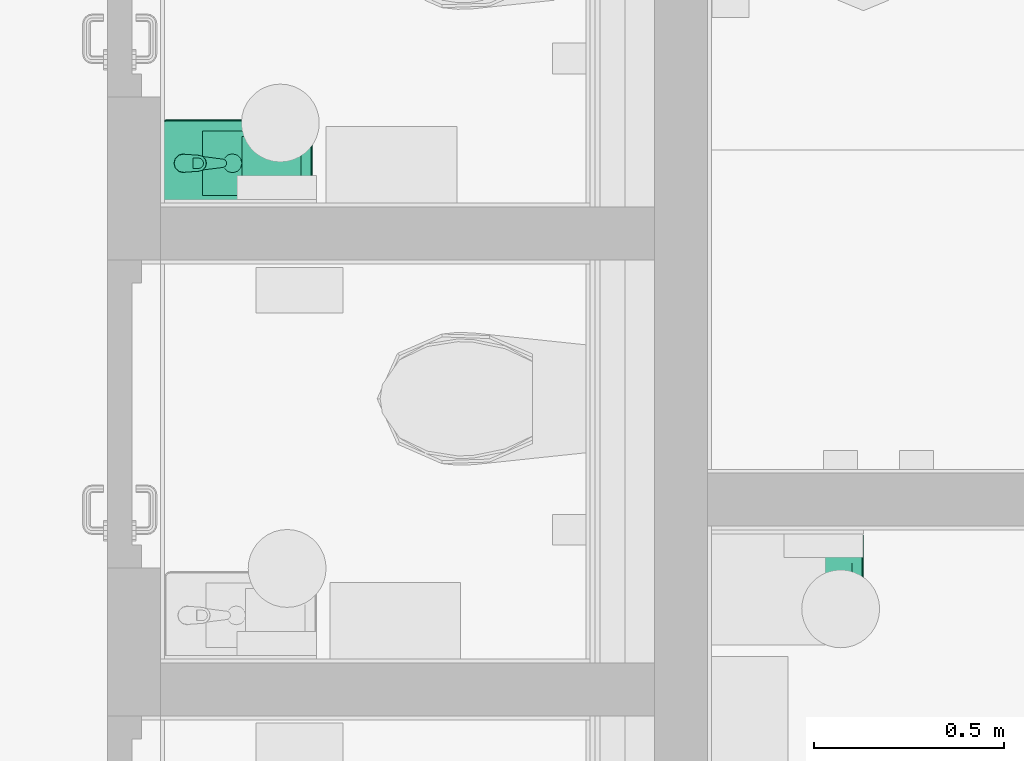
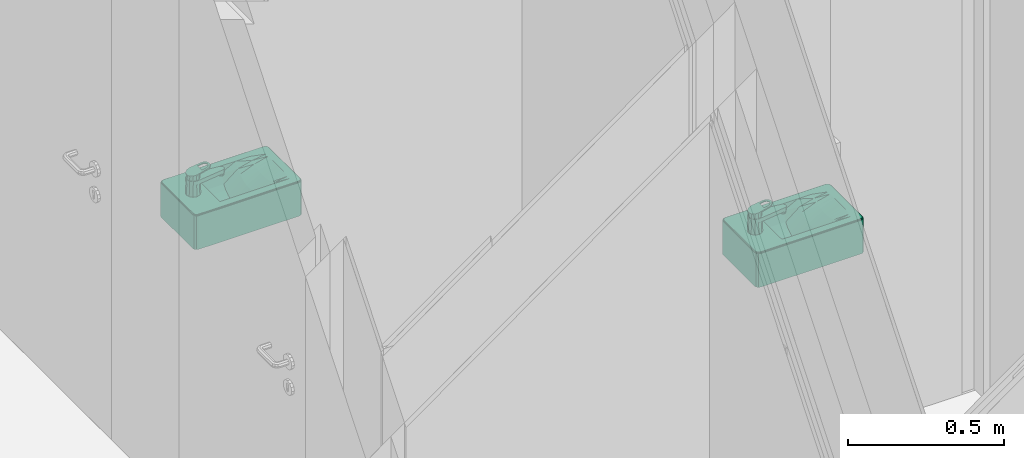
# One storey, part 265 of 301: 2 flow terminals.
"""IFC2X3 building model written with IfcOpenShell, lengths in millimetres."""

from ifc_helpers import new_model, entity, si_unit, converted_unit, derived_unit, money_unit, direction, frame, origin_with_axes, place, context, subcontext, project, spatial, open_shell, faceted_brep, surface_model, source, transform, mapped, type_object, element, save


model = new_model("IFC2X3")

# Units and contexts
model_context = context("Model", 3, precision=0.01, world=origin_with_axes(), true_north=direction((0.0, 1.0)))
body_context = subcontext(model_context, "Body", "Model", "MODEL_VIEW")
ifc_project = project(units=[si_unit("LENGTHUNIT", "METRE", prefix="MILLI"), si_unit("AREAUNIT", "SQUARE_METRE"), si_unit("VOLUMEUNIT", "CUBIC_METRE"), converted_unit("PLANEANGLEUNIT", "DEGREE", entity("IfcPlaneAngleMeasure", 0.0174532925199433), si_unit("PLANEANGLEUNIT", "RADIAN"), dimensions=[0, 0, 0, 0, 0, 0, 0]), money_unit("EUR"), converted_unit("TIMEUNIT", "Year", entity("IfcTimeMeasure", 31557600.0), si_unit("TIMEUNIT", "SECOND"), dimensions=[0, 0, 1, 0, 0, 0, 0]), si_unit("MASSUNIT", "GRAM", prefix="KILO"), si_unit("THERMODYNAMICTEMPERATUREUNIT", "DEGREE_CELSIUS"), si_unit("LUMINOUSINTENSITYUNIT", "LUMEN"), si_unit("ENERGYUNIT", "JOULE", prefix="MEGA"), derived_unit("THERMALCONDUCTANCEUNIT", [(si_unit("POWERUNIT", "WATT"), 1), (si_unit("LENGTHUNIT", "METRE"), -1), (si_unit("THERMODYNAMICTEMPERATUREUNIT", "KELVIN"), -1)]), derived_unit("SPECIFICHEATCAPACITYUNIT", [(si_unit("ENERGYUNIT", "JOULE"), 1), (si_unit("MASSUNIT", "GRAM", prefix="KILO"), -1), (si_unit("THERMODYNAMICTEMPERATUREUNIT", "KELVIN"), -1)]), derived_unit("MASSDENSITYUNIT", [(si_unit("MASSUNIT", "GRAM", prefix="KILO"), 1), (si_unit("VOLUMEUNIT", "CUBIC_METRE"), -1)])], contexts=[model_context])

# Site, building, storey
site_placement = place(None, frame((0.0, 0.0, 8650.0), z_axis=(0.0, 0.0, 1.0), x_axis=(1.0, 0.0, 0.0)))
site = spatial("IfcSite", under=ifc_project, at=site_placement, Name="43301:001:0844", CompositionType="ELEMENT")
building_placement = place(site_placement, origin_with_axes())
building = spatial("IfcBuilding", under=site, at=building_placement, Name="Kuressaare Ametikooli tuulikute mehaanikute õppekorpus", CompositionType="ELEMENT")
storey_placement = place(building_placement, origin_with_axes())
storey = spatial("IfcBuildingStorey", under=building, at=storey_placement, Name="1.korrus", CompositionType="ELEMENT", Elevation=0.0)

# Flow terminals
sanitary_terminal_type = type_object("IfcSanitaryTerminalType", Name="Basin 27", PredefinedType="NOTDEFINED")
shared_shape = source(origin_with_axes(), body_context, "Body", "SurfaceModel", [
    faceted_brep([(100.0, -400.0, 865.0), (-100.0, -400.0, 865.0), (-107.5, -397.9903810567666, 865.0), (-112.9903810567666, -392.5, 865.0), (-115.0, -385.0, 865.0), (-115.0, -14.99999999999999, 865.0), (-112.9903810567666, -7.500000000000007, 865.0), (-107.5, -2.009618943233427, 865.0), (-100.0, 0.0, 865.0), (100.0, 0.0, 865.0), (107.5, -2.009618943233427, 865.0), (112.9903810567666, -7.500000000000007, 865.0), (115.0, -14.99999999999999, 865.0), (115.0, -385.0, 865.0), (112.9903810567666, -392.5, 865.0), (107.5, -397.9903810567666, 865.0), (-85.0, -370.0, 865.0), (85.0, -370.0, 865.0), (85.0, -110.0, 865.0), (-85.0, -110.0, 865.0), (100.0000003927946, -400.0000003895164, 995.0), (-99.99999979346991, -400.0000003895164, 995.0), (-107.5000000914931, -397.9903813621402, 995.0), (-112.9903813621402, -392.5000000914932, 995.0), (-115.0000003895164, -384.99999979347, 995.0), (-115.0000003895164, -14.99999968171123, 995.0), (-112.9903813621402, -7.500000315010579, 995.0), (-107.5000000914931, -2.009619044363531, 995.0), (-99.99999979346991, -1.698735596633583e-08, 995.0), (100.0000003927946, -1.698735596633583e-08, 995.0), (107.4999997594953, -2.009619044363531, 995.0), (112.9903810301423, -7.500000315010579, 995.0), (115.0000000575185, -14.99999968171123, 995.0), (115.0000000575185, -384.99999979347, 995.0), (112.9903810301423, -392.5000000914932, 995.0), (107.4999997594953, -397.9903813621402, 995.0), (-85.0, -370.0, 999.9999996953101), (85.0, -370.0, 999.9999996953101), (85.0, -110.0, 999.9999996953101), (-85.0, -110.0, 999.9999996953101), (99.97757064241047, -399.8296295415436, 996.2940952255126), (-99.97757004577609, -399.8296295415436, 996.2940952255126), (-107.4118096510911, -397.8376310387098, 996.2940952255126), (-112.8376310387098, -392.4118096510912, 996.2940952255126), (-114.8296295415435, -384.9775700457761, 996.2940952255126), (-114.8296295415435, -15.02242943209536, 996.2940952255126), (-112.837631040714, -7.588190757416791, 996.2940952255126), (-107.4118096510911, -2.162369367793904, 996.2940952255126), (-99.97757004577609, -0.1703708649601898, 996.2940952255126), (99.97757064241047, -0.1703708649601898, 996.2940952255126), (107.4118093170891, -2.162369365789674, 996.2940952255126), (112.8376307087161, -7.588190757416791, 996.2940952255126), (114.8296292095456, -15.02242943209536, 996.2940952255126), (114.8296292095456, -384.9775700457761, 996.2940952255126), (112.8376307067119, -392.4118096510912, 996.2940952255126), (107.4118093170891, -397.8376310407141, 996.2940952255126), (-99.34173767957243, -4.999997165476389, 999.9999996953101), (-104.9118111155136, -6.492493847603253, 999.9999996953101), (-108.5075066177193, -10.08818934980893, 999.9999996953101), (-110.0000032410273, -15.65826187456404, 999.9999996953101), (-110.0000032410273, -384.3417376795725, 999.9999996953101), (-108.5075065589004, -389.9118111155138, 999.9999996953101), (-104.9118111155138, -393.5075065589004, 999.9999996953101), (-99.34173767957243, -395.0000032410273, 999.9999996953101), (99.34173819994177, -395.0000032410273, 999.9999996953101), (104.9118107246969, -393.5075066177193, 999.9999996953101), (108.5075062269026, -389.9118111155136, 999.9999996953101), (110.0000029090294, -384.3417376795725, 999.9999996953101), (110.0000029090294, -15.65826187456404, 999.9999996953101), (108.5075062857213, -10.08818934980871, 999.9999996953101), (104.9118107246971, -6.492493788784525, 999.9999996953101), (99.34173819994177, -4.999997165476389, 999.9999996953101), (99.80719978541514, -398.5355345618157, 998.5355339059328), (-99.80719920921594, -398.5355345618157, 998.5355339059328), (-106.7419367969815, -396.6773772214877, 998.5355339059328), (-111.6773772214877, -391.7419367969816, 998.5355339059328), (-113.5355345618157, -384.807199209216, 998.5355339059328), (-113.5355345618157, -15.1928002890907, 998.5355339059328), (-111.6773772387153, -8.258063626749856, 998.5355339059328), (-106.7419367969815, -3.322623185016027, 998.5355339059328), (-99.80719920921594, -1.464465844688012, 998.5355339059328), (99.80719978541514, -1.464465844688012, 998.5355339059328), (106.741936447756, -3.322623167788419, 998.5355339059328), (111.6773769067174, -8.258063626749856, 998.5355339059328), (113.5355342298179, -15.1928002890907, 998.5355339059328), (113.5355342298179, -384.807199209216, 998.5355339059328), (111.6773768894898, -391.7419367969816, 998.5355339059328), (106.741936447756, -396.6773772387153, 998.5355339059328), (-105.5816828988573, -5.332241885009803, 999.8296291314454), (-99.51210824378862, -3.70590425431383, 999.8296291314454), (-109.6677585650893, -9.41831755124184, 999.8296291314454), (-111.2940961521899, -15.48789128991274, 999.8296291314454), (-111.2940961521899, -384.5121082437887, 999.8296291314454), (-109.6677585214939, -390.5816828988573, 999.8296291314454), (-105.5816828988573, -394.667758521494, 999.8296291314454), (-99.51210824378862, -396.2940961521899, 999.8296291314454), (99.5121087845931, -396.2940961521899, 999.8296291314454), (105.581682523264, -394.6677585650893, 999.8296291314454), (109.667758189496, -390.5816828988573, 999.8296291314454), (111.294095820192, -384.5121082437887, 999.8296291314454), (111.294095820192, -15.48789128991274, 999.8296291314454), (109.6677582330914, -9.41831755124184, 999.8296291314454), (105.581682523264, -5.332241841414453, 999.8296291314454), (99.5121087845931, -3.70590425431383, 999.8296291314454)], [[[0, 1, 2, 3, 4, 5, 6, 7, 8, 9, 10, 11, 12, 13, 14, 15], [16, 17, 18, 19]], [[0, 20, 21, 1]], [[1, 21, 22, 2]], [[2, 22, 23, 3]], [[3, 23, 24, 4]], [[4, 24, 25, 5]], [[5, 25, 26, 6]], [[6, 26, 27, 7]], [[7, 27, 28, 8]], [[8, 28, 29, 9]], [[9, 29, 30, 10]], [[10, 30, 31, 11]], [[11, 31, 32, 12]], [[12, 32, 33, 13]], [[13, 33, 34, 14]], [[14, 34, 35, 15]], [[15, 35, 20, 0]], [[36, 37, 17, 16]], [[37, 38, 18, 17]], [[38, 39, 19, 18]], [[39, 36, 16, 19]], [[20, 40, 41, 21]], [[21, 41, 42, 22]], [[22, 42, 43, 23]], [[23, 43, 44, 24]], [[24, 44, 45, 25]], [[25, 45, 46, 26]], [[26, 46, 47, 27]], [[27, 47, 48, 28]], [[28, 48, 49, 29]], [[29, 49, 50, 30]], [[30, 50, 51, 31]], [[31, 51, 52, 32]], [[32, 52, 53, 33]], [[33, 53, 54, 34]], [[34, 54, 55, 35]], [[35, 55, 40, 20]], [[56, 57, 58, 59, 60, 61, 62, 63, 64, 65, 66, 67, 68, 69, 70, 71], [36, 39, 38, 37]], [[40, 72, 73, 41]], [[41, 73, 74, 42]], [[42, 74, 75, 43]], [[43, 75, 76, 44]], [[44, 76, 77, 45]], [[45, 77, 78, 46]], [[46, 78, 79, 47]], [[47, 79, 80, 48]], [[48, 80, 81, 49]], [[49, 81, 82, 50]], [[50, 82, 83, 51]], [[51, 83, 84, 52]], [[52, 84, 85, 53]], [[53, 85, 86, 54]], [[54, 86, 87, 55]], [[55, 87, 72, 40]], [[88, 57, 56, 89]], [[90, 58, 57, 88]], [[91, 59, 58, 90]], [[92, 60, 59, 91]], [[93, 61, 60, 92]], [[94, 62, 61, 93]], [[95, 63, 62, 94]], [[96, 64, 63, 95]], [[97, 65, 64, 96]], [[98, 66, 65, 97]], [[99, 67, 66, 98]], [[100, 68, 67, 99]], [[101, 69, 68, 100]], [[102, 70, 69, 101]], [[103, 71, 70, 102]], [[89, 56, 71, 103]], [[72, 96, 95, 73]], [[73, 95, 94, 74]], [[74, 94, 93, 75]], [[75, 93, 92, 76]], [[76, 92, 91, 77]], [[77, 91, 90, 78]], [[78, 90, 88, 79]], [[79, 88, 89, 80]], [[80, 89, 103, 81]], [[81, 103, 102, 82]], [[82, 102, 101, 83]], [[83, 101, 100, 84]], [[84, 100, 99, 85]], [[85, 99, 98, 86]], [[86, 98, 97, 87]], [[87, 97, 96, 72]]]),
    faceted_brep([(-85.0, -370.0, 865.0), (-85.0, -110.0, 865.0), (85.0, -110.0, 865.0), (85.0, -370.0, 865.0), (12.49999999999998, -210.733635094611, 865.0), (21.65063509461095, -201.583, 865.0), (25.0, -189.083, 865.0), (21.65063509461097, -176.583, 865.0), (12.50000000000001, -167.4323649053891, 865.0), (0.0, -164.083, 865.0), (-12.49999999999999, -167.4323649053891, 865.0), (-21.65063509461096, -176.583, 865.0), (-25.0, -189.083, 865.0), (-21.65063509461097, -201.583, 865.0), (-12.50000000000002, -210.733635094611, 865.0), (0.0, -214.083, 865.0), (-85.0, -266.0, 1000.0), (-85.0, -214.0, 972.25), (-85.0, -162.0, 972.25), (-85.0, -110.0, 972.25), (-85.0, -370.0, 1000.0), (-85.0, -318.0, 1000.0), (42.49999999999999, -110.0, 911.2166184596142), (56.66666666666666, -110.0, 921.2681999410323), (70.83333333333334, -110.0, 937.1336281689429), (85.0, -110.0, 972.2499999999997), (-70.83333333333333, -110.0, 937.133628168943), (-56.66666666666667, -110.0, 921.2681999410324), (-42.5, -110.0, 911.2166184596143), (-28.33333333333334, -110.0, 904.7939613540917), (-14.16666666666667, -110.0, 901.173124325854), (0.0, -110.0, 900.0), (14.16666666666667, -110.0, 901.173124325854), (28.33333333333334, -110.0, 904.7939613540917), (85.0, -214.0, 972.2499999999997), (85.0, -266.0, 999.9999999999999), (85.0, -318.0, 1000.0), (85.0, -370.0, 1000.0), (85.0, -162.0, 972.2499999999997), (-42.5, -370.0, 1000.0), (-56.66666666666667, -370.0, 1000.0), (-70.83333333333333, -370.0, 1000.0), (70.83333333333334, -370.0, 1000.0), (56.66666666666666, -370.0, 1000.0), (42.49999999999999, -370.0, 1000.0), (28.33333333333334, -370.0, 1000.0), (14.16666666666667, -370.0, 1000.0), (0.0, -370.0, 1000.0), (-14.16666666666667, -370.0, 1000.0), (-28.33333333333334, -370.0, 1000.0), (14.16666666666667, -209.0669684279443, 901.173124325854), (21.65063509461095, -201.583, 903.0859405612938), (12.49999999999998, -210.733635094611, 901.0351096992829), (25.0, -189.083, 903.9419997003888), (21.65063509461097, -176.583, 903.0859405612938), (14.16666666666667, -169.0990315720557, 901.173124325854), (12.50000000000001, -167.4323649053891, 901.035109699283), (0.0, -164.083, 900.0), (-12.49999999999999, -167.4323649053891, 901.035109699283), (-14.16666666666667, -169.0990315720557, 901.173124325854), (-21.65063509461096, -176.583, 903.0859405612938), (-25.0, -189.083, 903.9419997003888), (-21.65063509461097, -201.583, 903.0859405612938), (-14.16666666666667, -209.0669684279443, 901.173124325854), (-12.50000000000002, -210.733635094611, 901.035109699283), (-0.02107381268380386, -214.0773532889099, 900.0716455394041), (0.0, -214.083, 900.0751753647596), (-0.3097602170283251, -214.0, 900.0256508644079), (0.3097602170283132, -214.0, 900.0256508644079), (-70.83333333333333, -214.0, 937.133628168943), (-70.83333333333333, -162.0, 937.133628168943), (-70.83333333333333, -318.0, 992.8049756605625), (-70.83333333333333, -266.0, 978.92400992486), (56.66666666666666, -162.0, 921.2681999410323), (42.49999999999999, -162.0, 911.2166184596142), (70.83333333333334, -162.0, 937.1336281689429), (-56.66666666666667, -162.0, 921.2681999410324), (-42.5, -162.0, 911.2166184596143), (-28.33333333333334, -162.0, 904.7939613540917), (-14.16666666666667, -162.0, 901.173124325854), (0.0, -162.0, 900.0), (14.16666666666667, -162.0, 901.173124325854), (28.33333333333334, -162.0, 904.7939613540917), (70.83333333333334, -266.0, 978.92400992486), (70.83333333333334, -318.0, 992.8049756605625), (70.83333333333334, -214.0, 937.1336281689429), (-42.5, -318.0, 982.8921917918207), (-56.66666666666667, -318.0, 987.1546857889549), (56.66666666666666, -318.0, 987.1546857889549), (42.49999999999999, -318.0, 982.8921917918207), (28.33333333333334, -318.0, 979.9130117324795), (14.16666666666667, -318.0, 978.1503189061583), (0.0, -318.0, 977.5667630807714), (-14.16666666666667, -318.0, 978.1503189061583), (-28.33333333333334, -318.0, 979.9130117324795), (14.16666666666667, -214.0, 901.173124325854), (28.33333333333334, -214.0, 904.7939613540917), (-28.33333333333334, -214.0, 904.7939613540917), (-14.16666666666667, -214.0, 901.173124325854), (-14.16666666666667, -266.0, 948.1630206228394), (0.0, -266.0, 947.0978188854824), (-56.66666666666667, -214.0, 921.2681999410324), (56.66666666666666, -214.0, 921.2681999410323), (42.49999999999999, -214.0, 911.2166184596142), (-42.5, -214.0, 911.2166184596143), (14.16666666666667, -266.0, 948.1630206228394), (-28.33333333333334, -266.0, 951.4339022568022), (-56.66666666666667, -266.0, 965.9137620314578), (42.49999999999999, -266.0, 957.1657026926), (56.66666666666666, -266.0, 965.9137620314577), (-42.5, -266.0, 957.1657026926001), (28.33333333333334, -266.0, 951.4339022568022)], [[[0, 1, 2, 3], [4, 5, 6, 7, 8, 9, 10, 11, 12, 13, 14, 15]], [[16, 17, 18, 19, 1, 0, 20, 21]], [[22, 23, 24, 25, 2, 1, 19, 26, 27, 28, 29, 30, 31, 32, 33]], [[34, 35, 36, 37, 3, 2, 25, 38]], [[39, 40, 41, 20, 0, 3, 37, 42, 43, 44, 45, 46, 47, 48, 49]], [[50, 51, 5, 4, 52]], [[51, 53, 6, 5]], [[53, 54, 7, 6]], [[54, 55, 56, 8, 7]], [[56, 57, 9, 8]], [[57, 58, 10, 9]], [[58, 59, 60, 11, 10]], [[60, 61, 12, 11]], [[61, 62, 13, 12]], [[63, 64, 14, 13, 62]], [[65, 66, 15, 14, 64, 67]], [[68, 52, 4, 15, 66]], [[16, 69, 17]], [[69, 70, 18, 17]], [[70, 26, 19, 18]], [[20, 71, 21]], [[21, 72, 16]], [[73, 23, 22, 74]], [[75, 24, 23, 73]], [[38, 25, 24, 75]], [[76, 27, 26, 70]], [[77, 28, 27, 76]], [[78, 29, 28, 77]], [[79, 30, 29, 78]], [[80, 31, 30, 79]], [[81, 32, 31, 80]], [[82, 33, 32, 81]], [[74, 22, 33, 82]], [[83, 35, 34]], [[84, 36, 35]], [[42, 37, 36]], [[34, 38, 75, 85]], [[40, 39, 86]], [[41, 40, 87]], [[20, 41, 71]], [[43, 42, 84]], [[44, 43, 88]], [[45, 44, 89]], [[46, 45, 90]], [[47, 46, 91]], [[48, 47, 92]], [[49, 48, 93]], [[39, 49, 94]], [[55, 54, 53, 51, 50, 95, 96, 82, 81]], [[52, 68, 95, 50]], [[56, 55, 81, 80, 57]], [[58, 57, 80, 79, 59]], [[60, 59, 79, 78, 97, 98, 63, 62, 61]], [[64, 63, 98, 67]], [[66, 65, 99, 100]], [[65, 67, 98, 99]], [[68, 66, 100, 95]], [[16, 72, 69]], [[101, 76, 70, 69]], [[21, 71, 72]], [[102, 73, 74, 103]], [[85, 75, 73, 102]], [[104, 77, 76, 101]], [[97, 78, 77, 104]], [[103, 74, 82, 96]], [[84, 35, 83]], [[83, 34, 85]], [[42, 36, 84]], [[39, 94, 86]], [[40, 86, 87]], [[41, 87, 71]], [[43, 84, 88]], [[44, 88, 89]], [[45, 89, 90]], [[46, 90, 91]], [[47, 91, 92]], [[48, 92, 93]], [[49, 93, 94]], [[105, 96, 95]], [[106, 98, 97]], [[93, 100, 99]], [[106, 99, 98]], [[100, 105, 95]], [[72, 101, 69]], [[71, 107, 72]], [[108, 102, 103]], [[109, 85, 102]], [[107, 104, 101]], [[110, 97, 104]], [[111, 103, 96]], [[88, 84, 83]], [[109, 83, 85]], [[86, 94, 106]], [[87, 86, 110]], [[71, 87, 107]], [[89, 88, 109]], [[90, 89, 108]], [[91, 90, 111]], [[92, 91, 105]], [[93, 92, 100]], [[94, 93, 99]], [[105, 111, 96]], [[110, 106, 97]], [[94, 99, 106]], [[92, 105, 100]], [[72, 107, 101]], [[108, 109, 102]], [[111, 108, 103]], [[107, 110, 104]], [[88, 83, 109]], [[86, 106, 110]], [[87, 110, 107]], [[89, 109, 108]], [[90, 108, 111]], [[91, 111, 105]]]),
    faceted_brep([(21.65063509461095, -201.583, 900.0), (12.49999999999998, -210.733635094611, 900.0), (0.0, -214.083, 900.0), (-12.50000000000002, -210.733635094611, 900.0), (-21.65063509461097, -201.583, 900.0), (-25.0, -189.083, 900.0), (-21.65063509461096, -176.583, 900.0), (-12.49999999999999, -167.4323649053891, 900.0), (0.0, -164.083, 900.0), (12.50000000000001, -167.4323649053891, 900.0), (21.65063509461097, -176.583, 900.0), (25.0, -189.083, 900.0), (21.65063509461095, -201.583, 905.0), (12.49999999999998, -210.733635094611, 905.0), (0.0, -214.083, 905.0), (-12.50000000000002, -210.733635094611, 905.0), (-21.65063509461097, -201.583, 905.0), (-25.0, -189.083, 905.0), (-21.65063509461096, -176.583, 905.0), (-12.49999999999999, -167.4323649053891, 905.0), (0.0, -164.083, 905.0), (12.50000000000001, -167.4323649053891, 905.0), (21.65063509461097, -176.583, 905.0), (25.0, -189.083, 905.0)], [[[0, 1, 2, 3, 4, 5, 6, 7, 8, 9, 10, 11]], [[1, 0, 12, 13]], [[2, 1, 13, 14]], [[3, 2, 14, 15]], [[4, 3, 15, 16]], [[5, 4, 16, 17]], [[6, 5, 17, 18]], [[7, 6, 18, 19]], [[8, 7, 19, 20]], [[9, 8, 20, 21]], [[10, 9, 21, 22]], [[11, 10, 22, 23]], [[0, 11, 23, 12]], [[12, 23, 22, 21, 20, 19, 18, 17, 16, 15, 14, 13]]]),
    surface_model("IfcShellBasedSurfaceModel", [(0.0, -189.083, 907.0), (0.0, -176.46109443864, 906.4975737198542), (-6.310952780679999, -178.1521091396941, 906.4975737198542), (6.310952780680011, -178.1521091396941, 906.4975737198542), (0.0, -164.083, 905.0), (-12.5, -167.4323649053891, 905.0), (-10.93089086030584, -182.77204721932, 906.4975737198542), (10.93089086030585, -182.77204721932, 906.4975737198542), (12.50000000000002, -167.4323649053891, 905.0), (-21.65063509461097, -176.583, 905.0), (-12.62190556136, -189.083, 906.4975737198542), (12.62190556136, -189.083, 906.4975737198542), (21.65063509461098, -176.583, 905.0), (-25.0, -189.083, 905.0), (-10.93089086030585, -195.39395278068, 906.4975737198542), (10.93089086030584, -195.39395278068, 906.4975737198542), (25.0, -189.083, 905.0), (-21.65063509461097, -201.583, 905.0), (-6.310952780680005, -200.0138908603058, 906.4975737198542), (6.310952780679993, -200.0138908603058, 906.4975737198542), (21.65063509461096, -201.583, 905.0), (-12.50000000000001, -210.733635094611, 905.0), (0.0, -201.70490556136, 906.4975737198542), (12.49999999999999, -210.733635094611, 905.0), (0.0, -214.083, 905.0)], [open_shell([[[0, 1, 2]], [[0, 3, 1]], [[2, 1, 4, 5]], [[0, 2, 6]], [[0, 7, 3]], [[1, 3, 8, 4]], [[6, 2, 5, 9]], [[0, 6, 10]], [[0, 11, 7]], [[3, 7, 12, 8]], [[10, 6, 9, 13]], [[0, 10, 14]], [[0, 15, 11]], [[7, 11, 16, 12]], [[14, 10, 13, 17]], [[0, 14, 18]], [[0, 19, 15]], [[11, 15, 20, 16]], [[18, 14, 17, 21]], [[0, 18, 22]], [[0, 22, 19]], [[15, 19, 23, 20]], [[22, 18, 21, 24]], [[19, 22, 24, 23]]])]),
    faceted_brep([(12.50000000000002, -38.34936490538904, 1000.0), (0.0, -34.99999999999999, 1000.0), (0.0, -38.79807692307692, 1075.961538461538), (10.587322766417, -41.66221905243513, 1076.507089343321), (21.65063509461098, -47.50000000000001, 1000.0), (25.0, -60.00000000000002, 1000.0), (21.65063509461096, -72.50000000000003, 1000.0), (12.49999999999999, -81.65063509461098, 1000.0), (0.0, -84.99999999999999, 1000.0), (-12.50000000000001, -81.65063509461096, 1000.0), (-21.65063509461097, -72.5, 1000.0), (-25.0, -59.99999999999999, 1000.0), (-21.65063509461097, -47.49999999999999, 1000.0), (-12.5, -38.34936490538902, 1000.0), (-10.58732276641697, -41.66221905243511, 1076.507089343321), (-18.27355038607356, -49.44976076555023, 1077.99043062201), (-21.0, -59.99999999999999, 1080.0), (-18.10034137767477, -70.45023696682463, 1081.990521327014), (-10.41410590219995, -78.0377605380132, 1083.435763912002), (0.0, -80.80188679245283, 1083.962264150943), (10.41410590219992, -78.03776053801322, 1083.435763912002), (18.10034137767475, -70.45023696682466, 1081.990521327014), (21.0, -60.00000000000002, 1080.0), (18.27355038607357, -49.44976076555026, 1077.99043062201)], [[[0, 1, 2, 3]], [[0, 4, 5, 6, 7, 8, 9, 10, 11, 12, 13, 1]], [[1, 13, 14, 2]], [[3, 2, 14, 15, 16, 17, 18, 19, 20, 21, 22, 23]], [[4, 0, 3, 23]], [[5, 4, 23, 22]], [[6, 5, 22, 21]], [[7, 6, 21, 20]], [[8, 7, 20, 19]], [[9, 8, 19, 18]], [[10, 9, 18, 17]], [[11, 10, 17, 16]], [[12, 11, 16, 15]], [[13, 12, 15, 14]]]),
    faceted_brep([(9.000000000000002, -163.0, 1035.0), (7.794228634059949, -158.5, 1035.0), (7.794228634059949, -158.5, 1045.0), (9.000000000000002, -163.0, 1045.0), (7.794228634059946, -167.5, 1035.0), (4.499999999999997, -170.79422863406, 1035.0), (0.0, -172.0, 1035.0), (-4.500000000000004, -170.79422863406, 1035.0), (-7.794228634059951, -167.5, 1035.0), (-9.000000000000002, -163.0, 1035.0), (-7.794228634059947, -158.5, 1035.0), (-4.499999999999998, -155.2057713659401, 1035.0), (0.0, -154.0, 1035.0), (4.500000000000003, -155.2057713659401, 1035.0), (4.500000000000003, -155.2057713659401, 1045.0), (0.0, -154.0, 1045.0), (-4.499999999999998, -155.2057713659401, 1045.0), (-7.794228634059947, -158.5, 1045.0), (-9.000000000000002, -163.0, 1045.0), (-7.794228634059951, -167.5, 1045.0), (-4.500000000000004, -170.79422863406, 1045.0), (0.0, -172.0, 1045.0), (4.499999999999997, -170.79422863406, 1045.0), (7.794228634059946, -167.5, 1045.0)], [[[0, 1, 2, 3]], [[0, 4, 5, 6, 7, 8, 9, 10, 11, 12, 13, 1]], [[1, 13, 14, 2]], [[3, 2, 14, 15, 16, 17, 18, 19, 20, 21, 22, 23]], [[4, 0, 3, 23]], [[5, 4, 23, 22]], [[6, 5, 22, 21]], [[7, 6, 21, 20]], [[8, 7, 20, 19]], [[9, 8, 19, 18]], [[10, 9, 18, 17]], [[11, 10, 17, 16]], [[12, 11, 16, 15]], [[13, 12, 15, 14]]]),
    faceted_brep([(-12.87171762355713, -39.74369617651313, 1060.0), (-21.72780530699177, -49.80679463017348, 1060.0), (-23.8054, -63.04989999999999, 1060.0), (-10.9119908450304, -164.3883719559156, 1060.0), (-9.02887546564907, -169.2831941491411, 1060.0), (-5.093324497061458, -172.7497264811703, 1060.0), (3.626798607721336e-05, -173.9999600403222, 1060.0), (5.093388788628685, -172.7496928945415, 1060.0), (9.02891689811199, -169.2831346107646, 1060.0), (10.912, -164.3883, 1060.0), (23.80539974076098, -63.04990202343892, 1060.0), (21.72780617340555, -49.80679647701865, 1060.0), (12.87171934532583, -39.74369727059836, 1060.0), (1.019988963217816e-06, -36.00002168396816, 1060.0), (11.00000000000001, -40.94744111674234, 1060.0), (19.05255888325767, -48.99999999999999, 1060.0), (22.00000000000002, -60.0, 1060.0), (19.05255888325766, -71.00000000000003, 1060.0), (10.99999999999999, -79.05255888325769, 1060.0), (0.0, -82.0, 1060.0), (-11.00000000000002, -79.05255888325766, 1060.0), (-19.05255888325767, -70.99999999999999, 1060.0), (-22.00000000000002, -59.99999999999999, 1060.0), (-19.05255888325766, -48.99999999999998, 1060.0), (-11.0, -40.94744111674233, 1060.0), (0.0, -37.99999999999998, 1060.0), (-21.72780530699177, -49.80679463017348, 1045.0), (-12.87171762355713, -39.74369617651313, 1045.0), (-23.8054, -63.04989999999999, 1045.0), (-10.9119908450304, -164.3883719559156, 1045.0), (-9.02887546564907, -169.2831941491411, 1045.0), (-5.093324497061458, -172.7497264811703, 1045.0), (3.626798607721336e-05, -173.9999600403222, 1045.0), (5.093388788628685, -172.7496928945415, 1045.0), (9.02891689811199, -169.2831346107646, 1045.0), (10.912, -164.3883, 1045.0), (23.80539974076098, -63.04990202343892, 1045.0), (21.72780617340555, -49.80679647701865, 1045.0), (12.87171934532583, -39.74369727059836, 1045.0), (1.019988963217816e-06, -36.00002168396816, 1045.0), (11.37500000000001, -40.297922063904, 1045.0), (19.70207793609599, -48.62499999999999, 1045.0), (22.75000000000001, -60.0, 1045.0), (19.70207793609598, -71.37500000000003, 1045.0), (11.37499999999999, -79.702077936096, 1045.0), (0.0, -82.75, 1045.0), (-11.37500000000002, -79.70207793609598, 1045.0), (-19.70207793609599, -71.375, 1045.0), (-22.75000000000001, -59.99999999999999, 1045.0), (-19.70207793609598, -48.62499999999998, 1045.0), (-11.375, -40.297922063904, 1045.0), (0.0, -37.24999999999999, 1045.0)], [[[0, 1, 2, 3, 4, 5, 6, 7, 8, 9, 10, 11, 12, 13], [14, 15, 16, 17, 18, 19, 20, 21, 22, 23, 24, 25]], [[26, 1, 0, 27]], [[28, 2, 1, 26]], [[29, 3, 2, 28]], [[30, 4, 3, 29]], [[31, 5, 4, 30]], [[32, 6, 5, 31]], [[33, 7, 6, 32]], [[34, 8, 7, 33]], [[35, 9, 8, 34]], [[36, 10, 9, 35]], [[37, 11, 10, 36]], [[38, 12, 11, 37]], [[39, 13, 12, 38]], [[27, 0, 13, 39]], [[40, 41, 15, 14]], [[41, 42, 16, 15]], [[42, 43, 17, 16]], [[43, 44, 18, 17]], [[44, 45, 19, 18]], [[20, 19, 45, 46]], [[21, 20, 46, 47]], [[22, 21, 47, 48]], [[23, 22, 48, 49]], [[24, 23, 49, 50]], [[50, 51, 25, 24]], [[51, 40, 14, 25]], [[32, 31, 30, 29, 28, 26, 27, 39, 38, 37, 36, 35, 34, 33], [44, 43, 42, 41, 40, 51, 50, 49, 48, 47, 46, 45]]]),
    faceted_brep([(23.893, -61.69256934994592, 1080.322394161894), (21.29642141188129, -49.22528119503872, 1077.947672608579), (21.29642141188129, -48.47683276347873, 1081.877026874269), (23.893, -60.94412091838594, 1084.251748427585), (20.94593649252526, -101.8367022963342, 1087.968895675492), (17.66313911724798, -111.514366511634, 1089.81226028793), (10.06143529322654, -118.4637460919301, 1091.135951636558), (-0.0004426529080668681, -120.9856119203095, 1091.61630703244), (-10.06221236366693, -118.4633294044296, 1091.13587226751), (-17.66361794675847, -111.5136350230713, 1089.812120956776), (-20.946, -101.8358348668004, 1087.968730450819), (-23.89302047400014, -61.69229042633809, 1080.322341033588), (-21.29629106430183, -49.22503258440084, 1077.947625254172), (-12.4716815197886, -39.90880255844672, 1076.173105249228), (0.0001423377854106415, -36.46803549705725, 1075.517721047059), (12.47192457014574, -39.90894815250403, 1076.173132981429), (14.0, -85.54080272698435, 1084.86491480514), (-14.0, -85.54080272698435, 1084.86491480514), (-14.0, -100.3564329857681, 1087.686939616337), (-12.12435565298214, -107.2328029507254, 1088.996724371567), (-7.000000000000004, -112.2666551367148, 1089.955553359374), (0.0, -114.1091729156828, 1090.306509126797), (6.999999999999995, -112.2666551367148, 1089.955553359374), (12.12435565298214, -107.2328029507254, 1088.996724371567), (14.0, -100.3564329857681, 1087.686939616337), (12.47192457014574, -39.16049972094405, 1080.102487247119), (0.0001423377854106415, -35.71958706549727, 1079.447075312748), (-12.4716815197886, -39.16035412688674, 1080.102459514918), (-21.29629106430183, -48.47658415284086, 1081.876979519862), (-23.89302047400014, -60.9438419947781, 1084.251695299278), (-20.946, -101.0873864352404, 1091.898084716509), (-17.66361794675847, -110.7651865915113, 1093.741475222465), (-10.06221236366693, -117.7148809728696, 1095.0652265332), (-0.0004426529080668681, -120.2371634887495, 1095.54566129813), (10.06143529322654, -117.7152976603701, 1095.065305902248), (17.66313911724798, -110.765918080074, 1093.74161455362), (20.94593649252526, -101.0882538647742, 1091.898249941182), (14.0, -84.79235429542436, 1088.79426907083), (14.0, -99.60798455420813, 1091.616293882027), (12.12435565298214, -106.4843545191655, 1092.926078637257), (6.999999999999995, -111.5182067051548, 1093.884907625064), (0.0, -113.3607244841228, 1094.235863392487), (-7.000000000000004, -111.5182067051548, 1093.884907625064), (-12.12435565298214, -106.4843545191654, 1092.926078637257), (-14.0, -99.60798455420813, 1091.616293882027), (-14.0, -84.79235429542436, 1088.79426907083)], [[[0, 1, 2, 3]], [[0, 4, 5, 6, 7, 8, 9, 10, 11, 12, 13, 14, 15, 1], [16, 17, 18, 19, 20, 21, 22, 23, 24]], [[1, 15, 25, 2]], [[3, 2, 25, 26, 27, 28, 29, 30, 31, 32, 33, 34, 35, 36], [37, 38, 39, 40, 41, 42, 43, 44, 45]], [[4, 0, 3, 36]], [[5, 4, 36, 35]], [[6, 5, 35, 34]], [[7, 6, 34, 33]], [[8, 7, 33, 32]], [[9, 8, 32, 31]], [[10, 9, 31, 30]], [[11, 10, 30, 29]], [[12, 11, 29, 28]], [[13, 12, 28, 27]], [[14, 13, 27, 26]], [[15, 14, 26, 25]], [[17, 16, 37, 45]], [[18, 17, 45, 44]], [[19, 18, 44, 43]], [[20, 19, 43, 42]], [[21, 20, 42, 41]], [[22, 21, 41, 40]], [[23, 22, 40, 39]], [[24, 23, 39, 38]], [[16, 24, 38, 37]]]),
])
for number, where, z_axis, x_axis, name in (
    (1, (126655.2609789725, 21509.06892243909, 0.0), (0.0, 0.0, 1.0), (5.36943692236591e-07, 0.9999999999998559, 0.0), "V2"),
    (2, (125205.260556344, 22589.46999208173, 0.0), (0.0, 0.0, 1.0), (0.0, 1.0, 0.0), "V2"),
):
    element("IfcFlowTerminal", number, at=place(storey_placement, frame(where, z_axis=z_axis, x_axis=x_axis)), inside=storey, type_object=sanitary_terminal_type, Name=name, context=body_context, shape_type="MappedRepresentation", body=[
        mapped(shared_shape, transform((0.0, 0.0, 0.0))),
    ])

save(model, "model.ifc")
